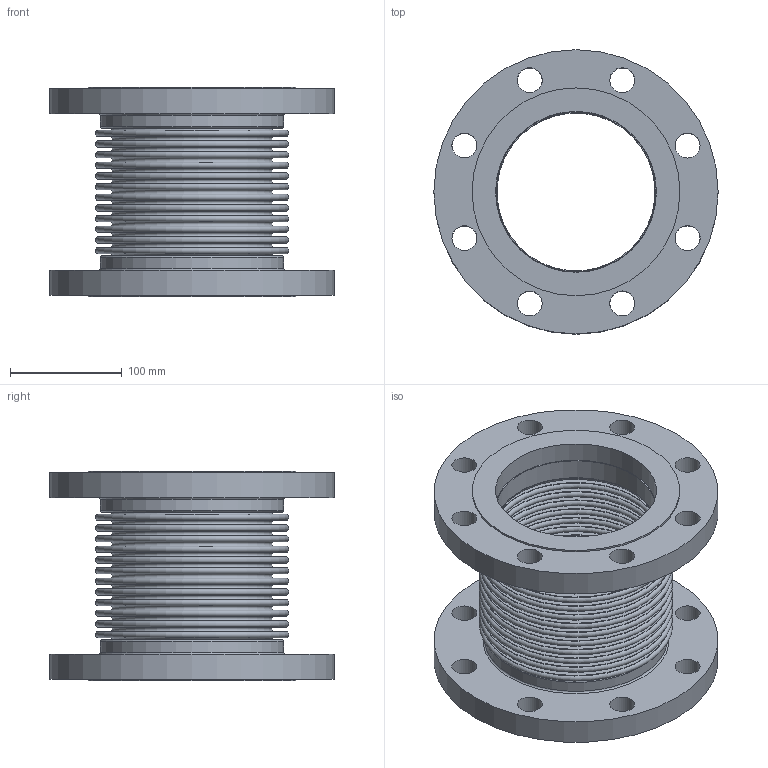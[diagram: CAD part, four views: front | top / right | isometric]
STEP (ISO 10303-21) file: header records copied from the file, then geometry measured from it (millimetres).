
FILE_DESCRIPTION(/* description */ ('EXPANSION JOINT,SINGLE, FLANGED ENDS,5 INCH NOMINAL','CAx-IF Rec.Pracs.---Representation and Presentation of Product Manufacturing Information (PMI)---4.0---2014-10-13'),/* implementation_level */ '2;1');
FILE_NAME(/* name */ 'US-05-12-150L-FLANGED ENDS.stp',/* time_stamp */ '2026-07-31T17:04:18-05:00',/* author */ ('Guadalupe'),/* organization */ (''),/* preprocessor_version */ 'ST-DEVELOPER v20.1',/* originating_system */ 'Autodesk Inventor 2026',/* authorisation */ '');
FILE_SCHEMA (('AP242_MANAGED_MODEL_BASED_3D_ENGINEERING_MIM_LF { 1 0 10303 442 2 1 4 }'));
Length unit declared in the file: inch
Products named in the file (3): 05-150L; 05-150L-02; 05-150L-01
Assembly tree (3 placements, depth 2):
  05-150L
    05-150L-02  x2
    05-150L-01
Bounding box: 254 x 254 x 187.45 mm (x, y, z)
Volume: 1729283 mm3; surface area: 691185.1 mm2
Topology: 5 solids, 5 shells, 144 faces, 246 edges, 164 vertices
Faces by surface type: plane 62, torus 54, cylinder 28
Full cylindrical faces by diameter (mm): 22.225 x16, 141.3 x2, 142.824 x2, 143.764 x2, 163.576 x2, 185.674 x2, 254 x2
Entity records: 3294 total; most frequent: DIRECTION 682, CARTESIAN_POINT 489, ORIENTED_EDGE 408, AXIS2_PLACEMENT_3D 333, EDGE_CURVE 204, EDGE_LOOP 200, CIRCLE 188, VERTEX_POINT 136
